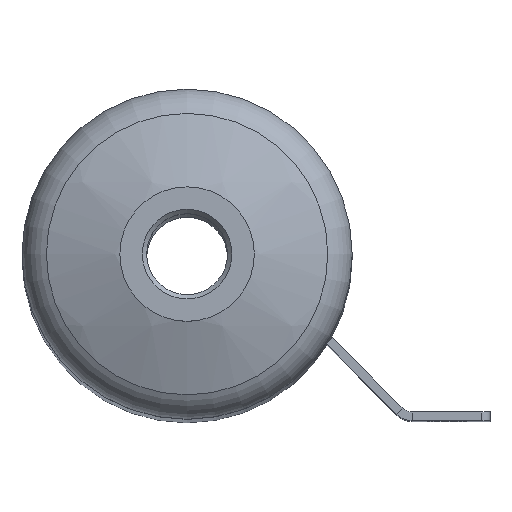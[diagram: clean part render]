
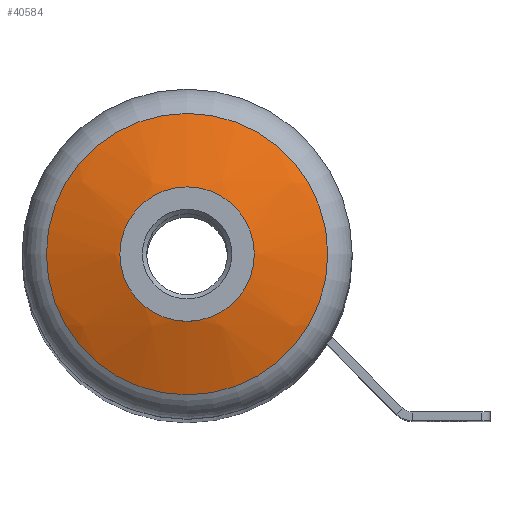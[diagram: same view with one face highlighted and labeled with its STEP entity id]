
A CAD part, top view. The second image highlights one B-rep face of the part: STEP entity #40584.
In plain terms, the highlighted spherical face has radius 78.1 mm.
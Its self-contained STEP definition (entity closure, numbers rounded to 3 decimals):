
#4164=SPHERICAL_SURFACE('',#43116,78.1);
#4362=FACE_BOUND('',#7751,.T.);
#5366=FACE_OUTER_BOUND('',#7750,.T.);
#7750=EDGE_LOOP('',(#27573));
#7751=EDGE_LOOP('',(#27574));
#16180=CIRCLE('',#43106,15.5);
#16185=CIRCLE('',#43114,32.43);
#16908=VERTEX_POINT('',#51332);
#16913=VERTEX_POINT('',#51347);
#21166=EDGE_CURVE('',#16908,#16908,#16180,.T.);
#21172=EDGE_CURVE('',#16913,#16913,#16185,.T.);
#27573=ORIENTED_EDGE('',*,*,#21172,.T.);
#27574=ORIENTED_EDGE('',*,*,#21166,.T.);
#40584=ADVANCED_FACE('',(#5366,#4362),#4164,.T.);
#43106=AXIS2_PLACEMENT_3D('',#51334,#44894,#44895);
#43114=AXIS2_PLACEMENT_3D('',#51348,#44911,#44912);
#43116=AXIS2_PLACEMENT_3D('',#51350,#44915,#44916);
#44894=DIRECTION('center_axis',(0.,-1.,0.));
#44895=DIRECTION('ref_axis',(1.,0.,0.));
#44911=DIRECTION('center_axis',(0.,1.,0.));
#44912=DIRECTION('ref_axis',(1.,0.,0.));
#44915=DIRECTION('center_axis',(0.,0.,1.));
#44916=DIRECTION('ref_axis',(1.,0.,0.));
#51332=CARTESIAN_POINT('',(-15.5,76.546,0.));
#51334=CARTESIAN_POINT('Origin',(0.,76.546,0.));
#51347=CARTESIAN_POINT('',(0.,71.048,-32.43));
#51348=CARTESIAN_POINT('Origin',(0.,71.048,0.));
#51350=CARTESIAN_POINT('Origin',(0.,0.,0.));
